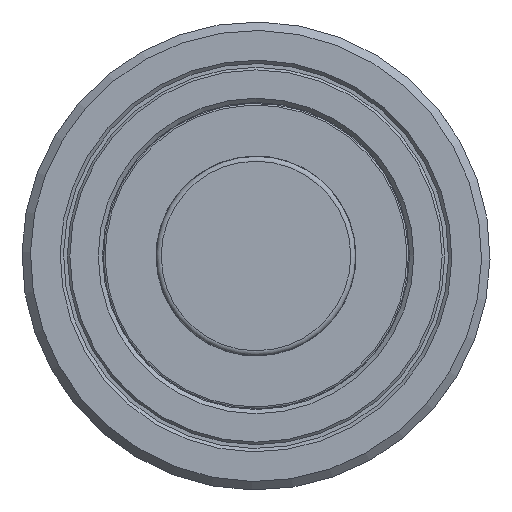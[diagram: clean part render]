
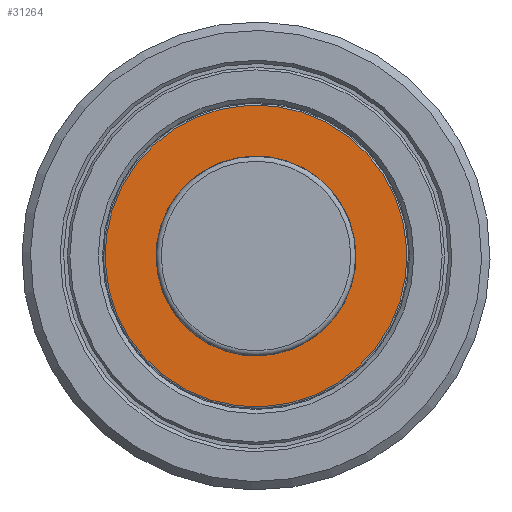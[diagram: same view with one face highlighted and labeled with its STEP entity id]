
A CAD part, left-side view. The second image highlights one B-rep face of the part: STEP entity #31264.
In plain terms, the highlighted planar face has unit normal (-1, 0, 0).
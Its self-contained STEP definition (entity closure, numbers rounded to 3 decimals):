
#1222=FACE_BOUND('',#3870,.T.);
#1383=PLANE('',#32758);
#2179=FACE_OUTER_BOUND('',#3869,.T.);
#3869=EDGE_LOOP('',(#22197));
#3870=EDGE_LOOP('',(#22198));
#7512=CIRCLE('',#32753,11.8);
#7515=CIRCLE('',#32759,17.8);
#12561=VERTEX_POINT('',#48171);
#12564=VERTEX_POINT('',#48183);
#16145=EDGE_CURVE('',#12561,#12561,#7512,.T.);
#16150=EDGE_CURVE('',#12564,#12564,#7515,.T.);
#22197=ORIENTED_EDGE('',*,*,#16150,.F.);
#22198=ORIENTED_EDGE('',*,*,#16145,.T.);
#31264=ADVANCED_FACE('',(#2179,#1222),#1383,.T.);
#32753=AXIS2_PLACEMENT_3D('',#48173,#34709,#34710);
#32758=AXIS2_PLACEMENT_3D('',#48182,#34721,#34722);
#32759=AXIS2_PLACEMENT_3D('',#48184,#34723,#34724);
#34709=DIRECTION('center_axis',(1.,0.,0.));
#34710=DIRECTION('ref_axis',(0.,0.218,0.976));
#34721=DIRECTION('center_axis',(-1.,0.,0.));
#34722=DIRECTION('ref_axis',(0.,-0.976,0.218));
#34723=DIRECTION('center_axis',(1.,0.,0.));
#34724=DIRECTION('ref_axis',(0.,0.218,0.976));
#48171=CARTESIAN_POINT('',(-35.3,2.578,11.515));
#48173=CARTESIAN_POINT('Origin',(-35.3,0.,0.));
#48182=CARTESIAN_POINT('Origin',(-35.3,-3.933,-17.565));
#48183=CARTESIAN_POINT('',(-35.3,-17.37,3.889));
#48184=CARTESIAN_POINT('Origin',(-35.3,0.,0.));
